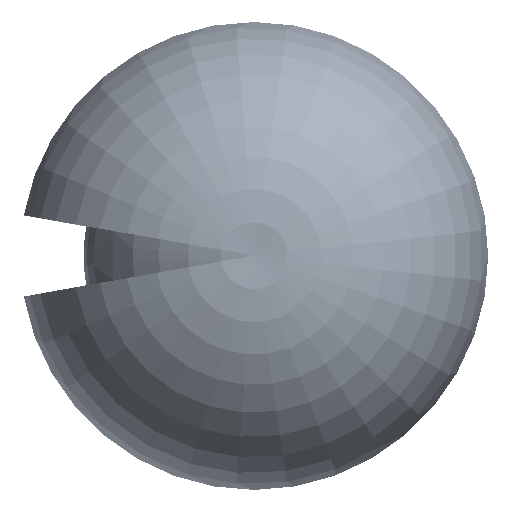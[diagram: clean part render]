
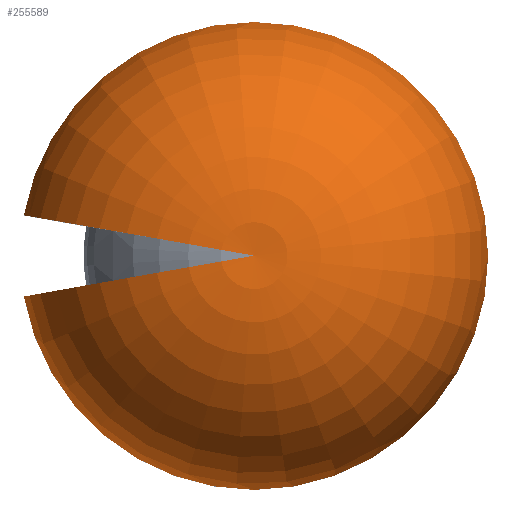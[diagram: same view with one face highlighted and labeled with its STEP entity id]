
A CAD part, top view. The second image highlights one B-rep face of the part: STEP entity #255589.
In plain terms, the highlighted toroidal (fillet/blend) face has major radius 350 mm and minor radius 2651.59 mm.
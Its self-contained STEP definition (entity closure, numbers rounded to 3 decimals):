
#5521 = CIRCLE ( 'NONE', #13587, 2651.589 ) ;
#5826 = TOROIDAL_SURFACE ( 'NONE', #160034, 350., 2651.589 ) ;
#13346 = FACE_OUTER_BOUND ( 'NONE', #25152, .T. ) ;
#13587 = AXIS2_PLACEMENT_3D ( 'NONE', #142732, #369549, #61577 ) ;
#18352 = CARTESIAN_POINT ( 'NONE',  ( 0., 0., 780. ) ) ;
#25152 = EDGE_LOOP ( 'NONE', ( #300170, #429172, #99677 ) ) ;
#44257 = CIRCLE ( 'NONE', #393613, 2991.499 ) ;
#57676 = EDGE_CURVE ( 'NONE', #266972, #445627, #44257, .T. ) ;
#61577 = DIRECTION ( 'NONE',  ( 0.985, 0.174, 0. ) ) ;
#99677 = ORIENTED_EDGE ( 'NONE', *, *, #227084, .T. ) ;
#141023 = VERTEX_POINT ( 'NONE', #380091 ) ;
#142732 = CARTESIAN_POINT ( 'NONE',  ( -344.683, -60.777, 780. ) ) ;
#146207 = CIRCLE ( 'NONE', #446974, 2651.589 ) ;
#160034 = AXIS2_PLACEMENT_3D ( 'NONE', #18352, #473729, #321281 ) ;
#166321 = CARTESIAN_POINT ( 'NONE',  ( -2946.051, 519.468, 1011.101 ) ) ;
#226338 = DIRECTION ( 'NONE',  ( 0., 1., 0. ) ) ;
#227084 = EDGE_CURVE ( 'NONE', #266972, #141023, #146207, .T. ) ;
#239946 = EDGE_CURVE ( 'NONE', #445627, #141023, #5521, .T. ) ;
#246037 = CARTESIAN_POINT ( 'NONE',  ( -344.683, 60.777, 780. ) ) ;
#255589 = ADVANCED_FACE ( 'NONE', ( #13346 ), #5826, .T. ) ;
#266972 = VERTEX_POINT ( 'NONE', #166321 ) ;
#300170 = ORIENTED_EDGE ( 'NONE', *, *, #239946, .F. ) ;
#305150 = CARTESIAN_POINT ( 'NONE',  ( 0., 0., 1011.101 ) ) ;
#319950 = DIRECTION ( 'NONE',  ( 0.985, -0.174, 0. ) ) ;
#321281 = DIRECTION ( 'NONE',  ( 0., 1., 0. ) ) ;
#369549 = DIRECTION ( 'NONE',  ( -0.174, 0.985, 0. ) ) ;
#379161 = DIRECTION ( 'NONE',  ( 0., 0., -1. ) ) ;
#380091 = CARTESIAN_POINT ( 'NONE',  ( 0., 0., 3408.388 ) ) ;
#393613 = AXIS2_PLACEMENT_3D ( 'NONE', #305150, #379161, #226338 ) ;
#401335 = DIRECTION ( 'NONE',  ( 0.174, 0.985, 0. ) ) ;
#429172 = ORIENTED_EDGE ( 'NONE', *, *, #57676, .F. ) ;
#445627 = VERTEX_POINT ( 'NONE', #501801 ) ;
#446974 = AXIS2_PLACEMENT_3D ( 'NONE', #246037, #401335, #319950 ) ;
#473729 = DIRECTION ( 'NONE',  ( 0., 0., -1. ) ) ;
#501801 = CARTESIAN_POINT ( 'NONE',  ( -2946.051, -519.468, 1011.101 ) ) ;
